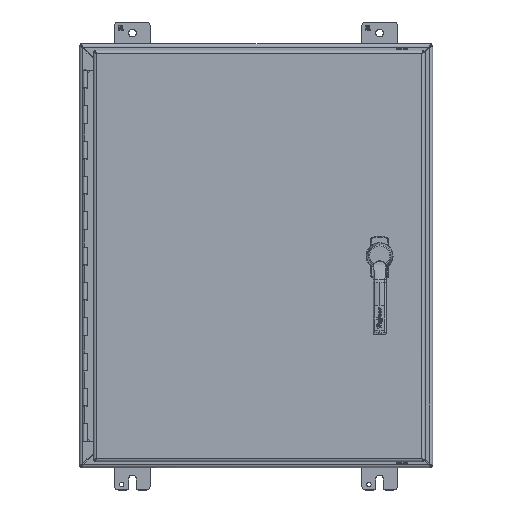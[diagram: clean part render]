
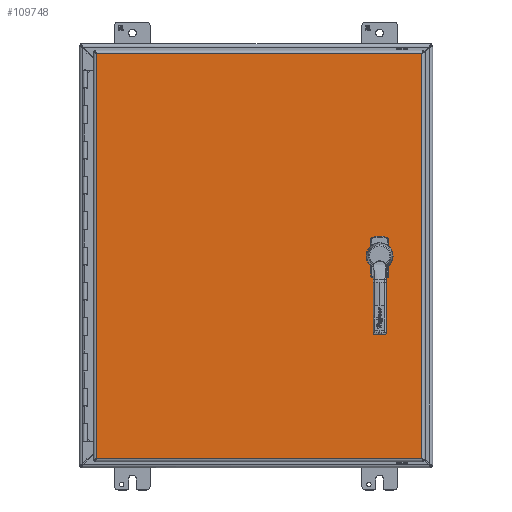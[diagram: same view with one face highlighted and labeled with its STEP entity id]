
A CAD part, top view. The second image highlights one B-rep face of the part: STEP entity #109748.
In plain terms, the highlighted planar face has unit normal (0, 0, 1).
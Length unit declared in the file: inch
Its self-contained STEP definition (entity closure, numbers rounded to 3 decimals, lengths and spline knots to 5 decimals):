
#1552 = VERTEX_POINT ( 'NONE', #18652 ) ;
#2238 = CARTESIAN_POINT ( 'NONE',  ( 6.9367, -0.906, 0.069 ) ) ;
#6900 = LINE ( 'NONE', #56976, #102304 ) ;
#8300 = CARTESIAN_POINT ( 'NONE',  ( 6.7187, -0.906, 0.069 ) ) ;
#8990 = DIRECTION ( 'NONE',  ( 1., 0., 0. ) ) ;
#12132 = CARTESIAN_POINT ( 'NONE',  ( 6.8277, 0., 0.069 ) ) ;
#12748 = VERTEX_POINT ( 'NONE', #73011 ) ;
#17271 = AXIS2_PLACEMENT_3D ( 'NONE', #54262, #138111, #66341 ) ;
#17445 = LINE ( 'NONE', #123872, #137270 ) ;
#18652 = CARTESIAN_POINT ( 'NONE',  ( 7.2337, 0., 0.069 ) ) ;
#22137 = EDGE_CURVE ( 'NONE', #1552, #67976, #121441, .T. ) ;
#24107 = DIRECTION ( 'NONE',  ( 1., 0., 0. ) ) ;
#24354 = FACE_BOUND ( 'NONE', #35179, .T. ) ;
#25535 = VERTEX_POINT ( 'NONE', #55564 ) ;
#26388 = EDGE_LOOP ( 'NONE', ( #32770, #85037 ) ) ;
#26559 = EDGE_LOOP ( 'NONE', ( #68450, #119280, #108732, #126265 ) ) ;
#29277 = ORIENTED_EDGE ( 'NONE', *, *, #22137, .F. ) ;
#32144 = EDGE_CURVE ( 'NONE', #132687, #79837, #6900, .T. ) ;
#32770 = ORIENTED_EDGE ( 'NONE', *, *, #78671, .F. ) ;
#32841 = DIRECTION ( 'NONE',  ( 0., 0., 1. ) ) ;
#35179 = EDGE_LOOP ( 'NONE', ( #145707, #102215 ) ) ;
#35895 = VECTOR ( 'NONE', #67637, 39.37008 ) ;
#36340 = VERTEX_POINT ( 'NONE', #49812 ) ;
#41238 = EDGE_CURVE ( 'NONE', #67976, #1552, #47423, .T. ) ;
#47423 = CIRCLE ( 'NONE', #17271, 0.406 ) ;
#47842 = CARTESIAN_POINT ( 'NONE',  ( 6.8277, -0.906, 0.069 ) ) ;
#49812 = CARTESIAN_POINT ( 'NONE',  ( -9.2187, 11.47725, 0.069 ) ) ;
#51319 = DIRECTION ( 'NONE',  ( 0., 0., 1. ) ) ;
#52349 = FACE_OUTER_BOUND ( 'NONE', #26559, .T. ) ;
#54262 = CARTESIAN_POINT ( 'NONE',  ( 6.8277, 0., 0.069 ) ) ;
#55496 = EDGE_CURVE ( 'NONE', #36340, #132687, #131419, .T. ) ;
#55564 = CARTESIAN_POINT ( 'NONE',  ( 6.7187, 0.906, 0.069 ) ) ;
#56976 = CARTESIAN_POINT ( 'NONE',  ( -9.31456, -11.47725, 0.069 ) ) ;
#57975 = CARTESIAN_POINT ( 'NONE',  ( 6.8277, -0.906, 0.069 ) ) ;
#59923 = DIRECTION ( 'NONE',  ( 1., 0., 0. ) ) ;
#63907 = CARTESIAN_POINT ( 'NONE',  ( 6.8277, 0.906, 0.069 ) ) ;
#64847 = AXIS2_PLACEMENT_3D ( 'NONE', #12132, #95779, #24107 ) ;
#66341 = DIRECTION ( 'NONE',  ( 1., 0., 0. ) ) ;
#67637 = DIRECTION ( 'NONE',  ( 0., -1., 0. ) ) ;
#67976 = VERTEX_POINT ( 'NONE', #76332 ) ;
#68450 = ORIENTED_EDGE ( 'NONE', *, *, #81926, .T. ) ;
#69132 = CARTESIAN_POINT ( 'NONE',  ( -9.2187, -11.47725, 0.069 ) ) ;
#70061 = DIRECTION ( 'NONE',  ( 1., 0., 0. ) ) ;
#71238 = VERTEX_POINT ( 'NONE', #2238 ) ;
#71898 = CARTESIAN_POINT ( 'NONE',  ( 9.2187, -11.57311, 0.069 ) ) ;
#73011 = CARTESIAN_POINT ( 'NONE',  ( 9.2187, 11.47725, 0.069 ) ) ;
#75999 = DIRECTION ( 'NONE',  ( 1., 0., 0. ) ) ;
#76332 = CARTESIAN_POINT ( 'NONE',  ( 6.4217, 0., 0.069 ) ) ;
#78671 = EDGE_CURVE ( 'NONE', #125860, #25535, #79892, .T. ) ;
#79653 = AXIS2_PLACEMENT_3D ( 'NONE', #57975, #141823, #70061 ) ;
#79837 = VERTEX_POINT ( 'NONE', #81815 ) ;
#79892 = CIRCLE ( 'NONE', #140735, 0.109 ) ;
#81815 = CARTESIAN_POINT ( 'NONE',  ( 9.2187, -11.47725, 0.069 ) ) ;
#81926 = EDGE_CURVE ( 'NONE', #12748, #36340, #17445, .T. ) ;
#84259 = FACE_BOUND ( 'NONE', #120071, .T. ) ;
#85037 = ORIENTED_EDGE ( 'NONE', *, *, #106067, .F. ) ;
#88893 = AXIS2_PLACEMENT_3D ( 'NONE', #123080, #51319, #135152 ) ;
#95779 = DIRECTION ( 'NONE',  ( 0., 0., 1. ) ) ;
#99013 = PLANE ( 'NONE',  #88893 ) ;
#99657 = AXIS2_PLACEMENT_3D ( 'NONE', #104572, #32841, #116573 ) ;
#101064 = VERTEX_POINT ( 'NONE', #8300 ) ;
#102215 = ORIENTED_EDGE ( 'NONE', *, *, #136738, .F. ) ;
#102304 = VECTOR ( 'NONE', #8990, 39.37008 ) ;
#104572 = CARTESIAN_POINT ( 'NONE',  ( 6.8277, 0.906, 0.069 ) ) ;
#106067 = EDGE_CURVE ( 'NONE', #25535, #125860, #127892, .T. ) ;
#106729 = EDGE_CURVE ( 'NONE', #79837, #12748, #114700, .T. ) ;
#108732 = ORIENTED_EDGE ( 'NONE', *, *, #32144, .T. ) ;
#109748 = ADVANCED_FACE ( 'NONE', ( #24354, #148026, #84259, #52349 ), #99013, .T. ) ;
#111806 = DIRECTION ( 'NONE',  ( -1., 0., 0. ) ) ;
#114700 = LINE ( 'NONE', #71898, #118464 ) ;
#116573 = DIRECTION ( 'NONE',  ( 1., 0., 0. ) ) ;
#118464 = VECTOR ( 'NONE', #132085, 39.37008 ) ;
#119280 = ORIENTED_EDGE ( 'NONE', *, *, #55496, .T. ) ;
#120071 = EDGE_LOOP ( 'NONE', ( #29277, #130707 ) ) ;
#121036 = EDGE_CURVE ( 'NONE', #71238, #101064, #146776, .T. ) ;
#121441 = CIRCLE ( 'NONE', #64847, 0.406 ) ;
#123080 = CARTESIAN_POINT ( 'NONE',  ( -9.3977, -11.65625, 0.069 ) ) ;
#123872 = CARTESIAN_POINT ( 'NONE',  ( 9.31456, 11.47725, 0.069 ) ) ;
#125860 = VERTEX_POINT ( 'NONE', #146260 ) ;
#126265 = ORIENTED_EDGE ( 'NONE', *, *, #106729, .T. ) ;
#127892 = CIRCLE ( 'NONE', #99657, 0.109 ) ;
#130707 = ORIENTED_EDGE ( 'NONE', *, *, #41238, .F. ) ;
#131419 = LINE ( 'NONE', #151516, #35895 ) ;
#131665 = DIRECTION ( 'NONE',  ( 0., 0., 1. ) ) ;
#132085 = DIRECTION ( 'NONE',  ( 0., 1., 0. ) ) ;
#132687 = VERTEX_POINT ( 'NONE', #69132 ) ;
#132957 = CIRCLE ( 'NONE', #150170, 0.109 ) ;
#135152 = DIRECTION ( 'NONE',  ( 1., 0., 0. ) ) ;
#136738 = EDGE_CURVE ( 'NONE', #101064, #71238, #132957, .T. ) ;
#137270 = VECTOR ( 'NONE', #111806, 39.37008 ) ;
#138111 = DIRECTION ( 'NONE',  ( 0., 0., 1. ) ) ;
#140735 = AXIS2_PLACEMENT_3D ( 'NONE', #63907, #147797, #75999 ) ;
#141823 = DIRECTION ( 'NONE',  ( 0., 0., 1. ) ) ;
#145707 = ORIENTED_EDGE ( 'NONE', *, *, #121036, .F. ) ;
#146260 = CARTESIAN_POINT ( 'NONE',  ( 6.9367, 0.906, 0.069 ) ) ;
#146776 = CIRCLE ( 'NONE', #79653, 0.109 ) ;
#147797 = DIRECTION ( 'NONE',  ( 0., 0., 1. ) ) ;
#148026 = FACE_BOUND ( 'NONE', #26388, .T. ) ;
#150170 = AXIS2_PLACEMENT_3D ( 'NONE', #47842, #131665, #59923 ) ;
#151516 = CARTESIAN_POINT ( 'NONE',  ( -9.2187, 11.57311, 0.069 ) ) ;
